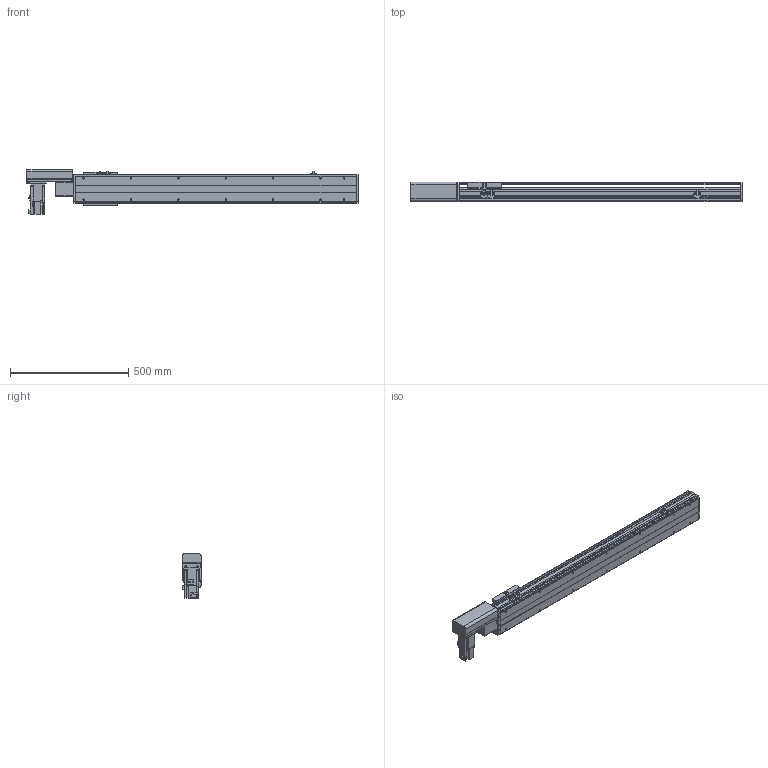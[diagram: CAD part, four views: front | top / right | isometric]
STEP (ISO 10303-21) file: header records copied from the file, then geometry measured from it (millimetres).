
FILE_DESCRIPTION(/* description */ ('STEP AP214'),/* implementation_level */ '2;1');
FILE_NAME(/* name */ 'PBS120-P40-S900-R-T40-C1-N(0)',/* time_stamp */ '2022-06-06T02:06:33+02:00',/* author */ ('License CC BY-ND 4.0'),/* organization */ ('CADENAS'),/* preprocessor_version */ 'ST-DEVELOPER v18.102',/* originating_system */ 'PARTsolutions',/* authorisation */ ' ');
FILE_SCHEMA (('AUTOMOTIVE_DESIGN {1 0 10303 214 3 1 1}'));
Length unit declared in the file: millimetre
Products named in the file (7): PBS120-P40-S900-R-T40-C1-N(0); PBS120_sensor; PBS120_plant; PBS120_sliser; T40-p1; PBS120T-R_motors; PBS120-S900()_body
Assembly tree (8 placements, depth 2):
  PBS120-P40-S900-R-T40-C1-N(0)
    PBS120_sensor  x3
    PBS120_plant
    PBS120_sliser
    T40-p1
    PBS120T-R_motors
    PBS120-S900()_body
Bounding box: 1401 x 83 x 189.7 mm (x, y, z)
Volume: 5635695.3 mm3; surface area: 1092004.4 mm2
Topology: 8 solids, 8 shells, 822 faces, 2146 edges, 1381 vertices
Faces by surface type: plane 547, cylinder 227, cone 46, torus 2
Full cylindrical faces by diameter (mm): 2.459 x6, 3.242 x4, 4 x2, 4.134 x4, 4.5 x10, 4.917 x18, 5.5 x11, 6 x2, 6.6 x1, 7 x2, 8.5 x4, 9 x4, 12 x1, 14 x1, 30 x2, 40 x1, 50 x2
Entity records: 21474 total; most frequent: DIRECTION 3716, CARTESIAN_POINT 3659, ORIENTED_EDGE 3490, EDGE_CURVE 1745, AXIS2_PLACEMENT_3D 1244, LINE 1228, VECTOR 1228, VERTEX_POINT 1187
